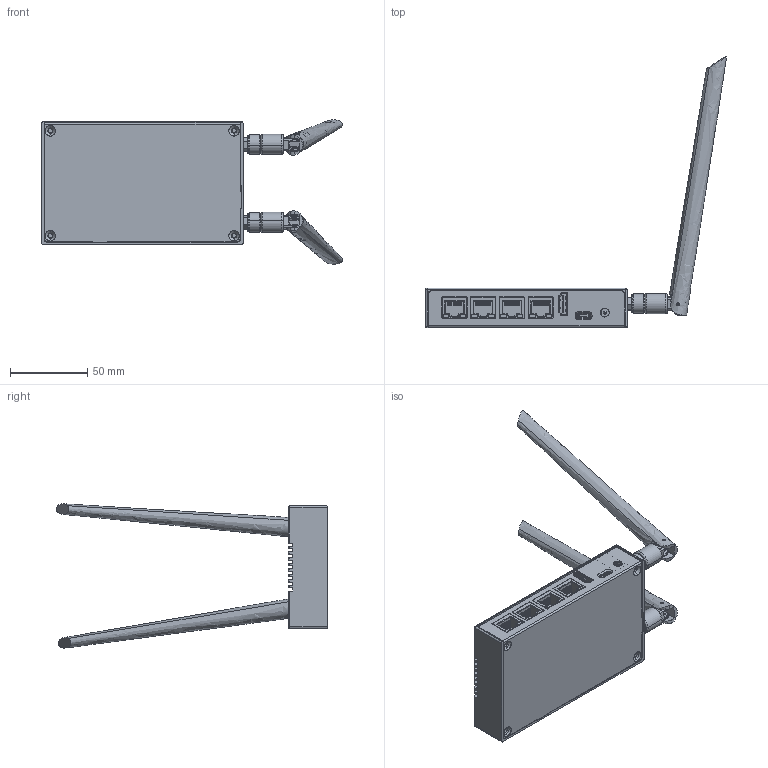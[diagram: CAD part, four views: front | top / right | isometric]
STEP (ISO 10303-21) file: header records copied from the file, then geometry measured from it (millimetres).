
FILE_DESCRIPTION (( 'STEP AP214' ), '1' );
FILE_NAME ('LubanCat 2N.STEP', '2022-11-28T02:46:47', ( '' ), ( '' ), 'SwSTEP 2.0', 'SolidWorks 2021', '' );
FILE_SCHEMA (( 'AUTOMOTIVE_DESIGN' ));
Length unit declared in the file: millimetre
Products named in the file (32): User Library-USB-TYPE-C20; 聆泂LED; 毞盄嘐隅蹟佪; 72r3759_2007435-1; 毞盄錨璃1; RK3568PCB; User Library-pj-393-8_PJ-393-8_2; SD縐釱赽; SIMｿｨ1; x05b20u24t; IRM-v838M3 綻俋泂え; 錨璃3^User Library-pj-393-8; 2.54邧齬齬渀; FPC楹裔30P-0.5MM; 毞盄; 菁脯俋褲; usb3x2; DC脣釱_囀噤_2MM俋噤_5.9MM; 酗毞盄; SIMｿｨmini; LubanCat 2N; SD縐; User Library-pj-393-8; 边三脚侧插侧按按键6mm; 綻俋敦諳; User Library-pj-393-8_PJ-393-8_4; User Library-pj-393-8_PJ-393-8_1; 毞盄釱赽; 錨璃4^User Library-pj-393-8; 階脯俋褲; HR911105A
Assembly tree (44 placements, depth 3):
  錨璃3^User Library-pj-393-8
  LubanCat 2N
    RK3568PCB
    72r3759_2007435-1
    HR911105A  x4
    IRM-v838M3 綻俋泂え
    SD縐
    SIMｿｨ1
    SIMｿｨmini
    usb3x2
    User Library-USB-TYPE-C20
    边三脚侧插侧按按键6mm  x3
    聆泂LED  x2
    酗毞盄
      毞盄
      毞盄錨璃1
      毞盄嘐隅蹟佪
    SD縐釱赽
    User Library-pj-393-8
      User Library-pj-393-8_PJ-393-8_1
      User Library-pj-393-8_PJ-393-8_2  x4
      User Library-pj-393-8_PJ-393-8_4  x3
      錨璃4^User Library-pj-393-8
    2.54邧齬齬渀
    階脯俋褲
    FPC楹裔30P-0.5MM
    x05b20u24t
    酗毞盄
      毞盄
      毞盄釱赽
      毞盄錨璃1
      毞盄嘐隅蹟佪
    菁脯俋褲
    DC脣釱_囀噤_2MM俋噤_5.9MM
    綻俋敦諳
Bounding box: 194.89 x 175.59 x 93.58 mm (x, y, z)
Volume: 145575.1 mm3; surface area: 122754.3 mm2
Topology: 67 solids, 148 shells, 8492 faces, 22870 edges, 14688 vertices
Faces by surface type: plane 5939, cylinder 1816, bspline 428, cone 184, torus 86, sphere 39
Entity records: 237183 total; most frequent: CARTESIAN_POINT 53513, ORIENTED_EDGE 35812, DIRECTION 31063, EDGE_CURVE 18006, VECTOR 13943, LINE 13943, VERTEX_POINT 11620, AXIS2_PLACEMENT_3D 8560
